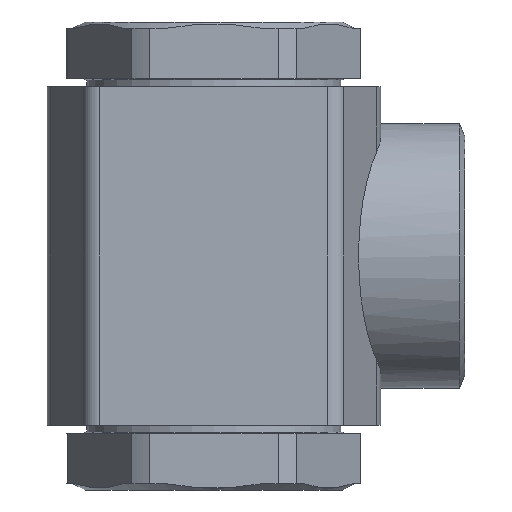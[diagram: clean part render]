
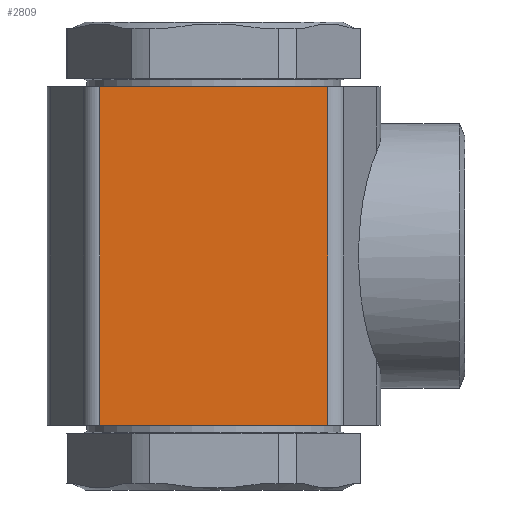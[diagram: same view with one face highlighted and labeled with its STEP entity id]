
A CAD part, front view. The second image highlights one B-rep face of the part: STEP entity #2809.
In plain terms, the highlighted planar face has unit normal (0, -1, 0).
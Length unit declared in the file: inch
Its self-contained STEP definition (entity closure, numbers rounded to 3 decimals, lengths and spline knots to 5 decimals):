
#215 = ORIENTED_EDGE ( 'NONE', *, *, #4056, .F. ) ;
#284 = CARTESIAN_POINT ( 'NONE',  ( -1.34759, -2.185, 2.0025 ) ) ;
#298 = CARTESIAN_POINT ( 'NONE',  ( 1.34759, -2.185, -2.0025 ) ) ;
#406 = VERTEX_POINT ( 'NONE', #298 ) ;
#580 = VECTOR ( 'NONE', #698, 39.37008 ) ;
#640 = VECTOR ( 'NONE', #5031, 39.37008 ) ;
#698 = DIRECTION ( 'NONE',  ( 0., 0., -1. ) ) ;
#721 = DIRECTION ( 'NONE',  ( 1., 0., 0. ) ) ;
#1106 = ORIENTED_EDGE ( 'NONE', *, *, #1167, .T. ) ;
#1157 = VECTOR ( 'NONE', #721, 39.37008 ) ;
#1167 = EDGE_CURVE ( 'NONE', #1290, #406, #4637, .T. ) ;
#1290 = VERTEX_POINT ( 'NONE', #2958 ) ;
#1402 = VERTEX_POINT ( 'NONE', #5161 ) ;
#1409 = CARTESIAN_POINT ( 'NONE',  ( -1.34759, -2.185, 2.0025 ) ) ;
#1444 = LINE ( 'NONE', #1734, #640 ) ;
#1445 = DIRECTION ( 'NONE',  ( 1., 0., 0. ) ) ;
#1725 = VECTOR ( 'NONE', #1445, 39.37008 ) ;
#1734 = CARTESIAN_POINT ( 'NONE',  ( 1.34759, -2.185, 2.0025 ) ) ;
#1893 = CARTESIAN_POINT ( 'NONE',  ( -1.34759, -2.185, 2.0025 ) ) ;
#1906 = CARTESIAN_POINT ( 'NONE',  ( -1.34759, -2.185, 2.0025 ) ) ;
#1961 = EDGE_LOOP ( 'NONE', ( #1106, #4116, #215, #3725 ) ) ;
#2046 = EDGE_CURVE ( 'NONE', #1402, #406, #1444, .T. ) ;
#2149 = FACE_OUTER_BOUND ( 'NONE', #1961, .T. ) ;
#2654 = DIRECTION ( 'NONE',  ( 0., 0., 1. ) ) ;
#2809 = ADVANCED_FACE ( 'NONE', ( #2149 ), #4998, .F. ) ;
#2958 = CARTESIAN_POINT ( 'NONE',  ( -1.34759, -2.185, -2.0025 ) ) ;
#2964 = DIRECTION ( 'NONE',  ( 0., 1., 0. ) ) ;
#3238 = AXIS2_PLACEMENT_3D ( 'NONE', #1409, #2964, #2654 ) ;
#3467 = CARTESIAN_POINT ( 'NONE',  ( -1.34759, -2.185, -2.0025 ) ) ;
#3725 = ORIENTED_EDGE ( 'NONE', *, *, #4067, .T. ) ;
#4056 = EDGE_CURVE ( 'NONE', #4869, #1402, #5077, .T. ) ;
#4067 = EDGE_CURVE ( 'NONE', #4869, #1290, #4312, .T. ) ;
#4116 = ORIENTED_EDGE ( 'NONE', *, *, #2046, .F. ) ;
#4312 = LINE ( 'NONE', #1893, #580 ) ;
#4637 = LINE ( 'NONE', #3467, #1725 ) ;
#4869 = VERTEX_POINT ( 'NONE', #1906 ) ;
#4998 = PLANE ( 'NONE',  #3238 ) ;
#5031 = DIRECTION ( 'NONE',  ( 0., 0., -1. ) ) ;
#5077 = LINE ( 'NONE', #284, #1157 ) ;
#5161 = CARTESIAN_POINT ( 'NONE',  ( 1.34759, -2.185, 2.0025 ) ) ;
